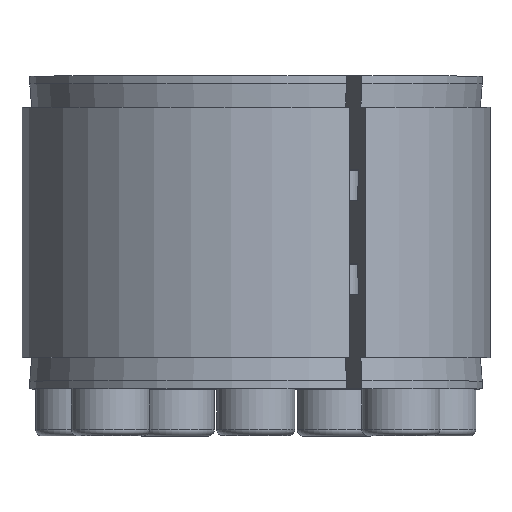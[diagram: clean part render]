
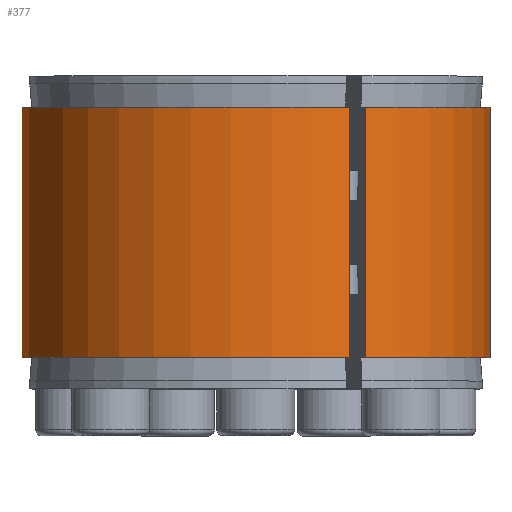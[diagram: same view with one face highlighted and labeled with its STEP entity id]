
A CAD part, top view. The second image highlights one B-rep face of the part: STEP entity #377.
In plain terms, the highlighted cylindrical face has radius 30 mm (diameter 60 mm), a partial arc.
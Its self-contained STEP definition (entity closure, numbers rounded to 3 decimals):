
#377 = ADVANCED_FACE( '', ( #611 ), #612, .T. );
#611 = FACE_OUTER_BOUND( '', #816, .T. );
#612 = CYLINDRICAL_SURFACE( '', #817, 30. );
#816 = EDGE_LOOP( '', ( #1090, #1091, #1092, #1093 ) );
#817 = AXIS2_PLACEMENT_3D( '', #1094, #1095, #1096 );
#1090 = ORIENTED_EDGE( '', *, *, #1517, .F. );
#1091 = ORIENTED_EDGE( '', *, *, #1518, .T. );
#1092 = ORIENTED_EDGE( '', *, *, #1484, .F. );
#1093 = ORIENTED_EDGE( '', *, *, #1519, .F. );
#1094 = CARTESIAN_POINT( '', ( 0., -60., 0. ) );
#1095 = DIRECTION( '', ( 0., 1., 0. ) );
#1096 = DIRECTION( '', ( 0., 0., -1. ) );
#1484 = EDGE_CURVE( '', #1655, #1657, #1658, .F. );
#1517 = EDGE_CURVE( '', #1717, #1718, #1719, .T. );
#1518 = EDGE_CURVE( '', #1717, #1657, #1720, .T. );
#1519 = EDGE_CURVE( '', #1718, #1655, #1721, .T. );
#1655 = VERTEX_POINT( '', #1843 );
#1657 = VERTEX_POINT( '', #1846 );
#1658 = LINE( '', #1847, #1848 );
#1717 = VERTEX_POINT( '', #1924 );
#1718 = VERTEX_POINT( '', #1925 );
#1719 = LINE( '', #1926, #1927 );
#1720 = CIRCLE( '', #1928, 30. );
#1721 = CIRCLE( '', #1929, 30. );
#1843 = CARTESIAN_POINT( '', ( 13.991, 4., 26.538 ) );
#1846 = CARTESIAN_POINT( '', ( 13.991, 36., 26.538 ) );
#1847 = CARTESIAN_POINT( '', ( 13.991, -60., 26.538 ) );
#1848 = VECTOR( '', #2048, 1000. );
#1924 = CARTESIAN_POINT( '', ( 12.025, 36., 27.485 ) );
#1925 = CARTESIAN_POINT( '', ( 12.025, 4., 27.485 ) );
#1926 = CARTESIAN_POINT( '', ( 12.025, -60., 27.485 ) );
#1927 = VECTOR( '', #2117, 1000. );
#1928 = AXIS2_PLACEMENT_3D( '', #2118, #2119, #2120 );
#1929 = AXIS2_PLACEMENT_3D( '', #2121, #2122, #2123 );
#2048 = DIRECTION( '', ( 0., -1., 0. ) );
#2117 = DIRECTION( '', ( 0., -1., 0. ) );
#2118 = CARTESIAN_POINT( '', ( 0., 36., 0. ) );
#2119 = DIRECTION( '', ( 0., -1., 0. ) );
#2120 = DIRECTION( '', ( 0., 0., -1. ) );
#2121 = CARTESIAN_POINT( '', ( 0., 4., 0. ) );
#2122 = DIRECTION( '', ( 0., -1., 0. ) );
#2123 = DIRECTION( '', ( 0., 0., -1. ) );
